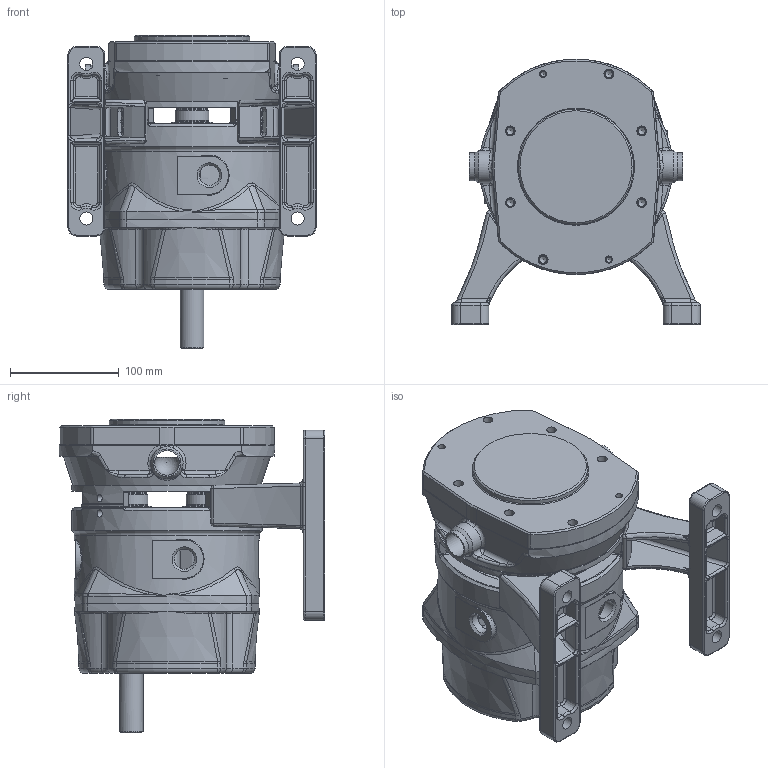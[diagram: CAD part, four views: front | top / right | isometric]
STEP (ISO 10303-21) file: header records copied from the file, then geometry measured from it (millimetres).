
FILE_DESCRIPTION(/* description */ (''),/* implementation_level */ '2;1');
FILE_NAME(/* name */ 'DW+2 commercial use.stp',/* time_stamp */ '2025-10-14T15:00:01+02:00',/* author */ ('WA4RRE'),/* organization */ (''),/* preprocessor_version */ 'ST-DEVELOPER v20',/* originating_system */ 'Autodesk Inventor 2025',/* authorisation */ '');
FILE_SCHEMA (('AUTOMOTIVE_DESIGN { 1 0 10303 214 3 1 1 }'));
Products named in the file (9): DW2_ASSEMBLY; H11590; H10102; H10103; H11421; CVLA1302200; CVLA1364200; F11122-G10909; F11122_MIR
Assembly tree (8 placements, depth 2):
  DW2_ASSEMBLY
    H11590
    H10102
    H10103
    H11421
    CVLA1302200
    CVLA1364200
    F11122-G10909
    F11122_MIR
Bounding box: 228 x 244 x 288.04 mm (x, y, z)
Volume: 2787272.2 mm3; surface area: 617990.8 mm2
Topology: 8 solids, 8 shells, 1586 faces, 4061 edges, 2484 vertices
Faces by surface type: cylinder 537, bspline 309, plane 300, torus 243, cone 173, sphere 24
Full cylindrical faces by diameter (mm): 3.1 x2, 4.496 x2, 4.917 x18, 6.647 x16, 6.9 x4, 7 x4, 8 x6, 8.376 x2, 8.4 x4, 9 x6, 10 x8, 11 x2, 12 x4, 14 x3, 18.5 x2, 18.631 x4, 22 x3, 22.05 x1, 22.45 x2, 22.6 x2, 23.9 x2, 25 x2, 25.6 x2, 28.02 x2, 30 x2, 31 x4, 35 x1, 38 x2, 52 x2, 54.75 x2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
Entity records: 59036 total; most frequent: CARTESIAN_POINT 21191, ORIENTED_EDGE 7962, DIRECTION 7637, EDGE_CURVE 3981, AXIS2_PLACEMENT_3D 3195, VERTEX_POINT 2484, CIRCLE 1785, EDGE_LOOP 1767
